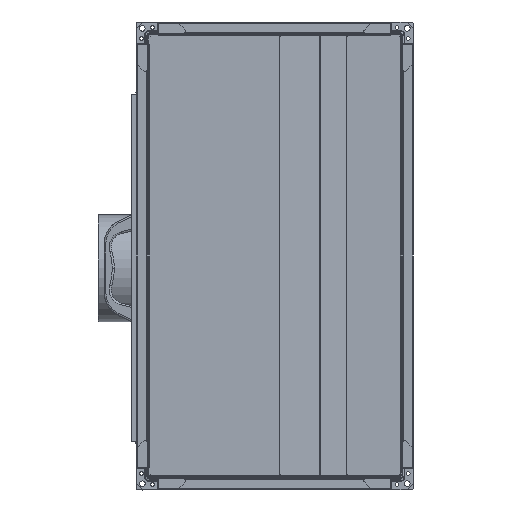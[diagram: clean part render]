
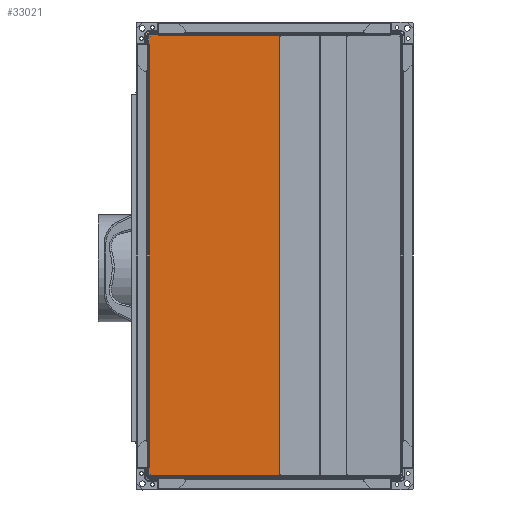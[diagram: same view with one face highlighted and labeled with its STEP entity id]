
A CAD part, left-side view. The second image highlights one B-rep face of the part: STEP entity #33021.
In plain terms, the highlighted planar face has unit normal (-1, 0, 0).
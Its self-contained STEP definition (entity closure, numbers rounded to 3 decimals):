
#2832=FACE_OUTER_BOUND('',#4592,.T.);
#4592=EDGE_LOOP('',(#24066,#24067,#24068,#24069,#24070,#24071,#24072,#24073,
#24074,#24075,#24076,#24077));
#7510=LINE('',#52417,#10572);
#7535=LINE('',#52471,#10597);
#7545=LINE('',#52493,#10607);
#7566=LINE('',#52538,#10628);
#7575=LINE('',#52556,#10637);
#7602=LINE('',#52608,#10664);
#7617=LINE('',#52635,#10679);
#7622=LINE('',#52642,#10684);
#7623=LINE('',#52644,#10685);
#7624=LINE('',#52645,#10686);
#7625=LINE('',#52646,#10687);
#7626=LINE('',#52647,#10688);
#10572=VECTOR('',#38611,10.);
#10597=VECTOR('',#38650,10.);
#10607=VECTOR('',#38664,10.);
#10628=VECTOR('',#38697,10.);
#10637=VECTOR('',#38712,10.);
#10664=VECTOR('',#38751,10.);
#10679=VECTOR('',#38772,10.);
#10684=VECTOR('',#38779,10.);
#10685=VECTOR('',#38780,10.);
#10686=VECTOR('',#38781,10.);
#10687=VECTOR('',#38782,10.);
#10688=VECTOR('',#38783,10.);
#13767=VERTEX_POINT('',#52414);
#13768=VERTEX_POINT('',#52416);
#13789=VERTEX_POINT('',#52469);
#13790=VERTEX_POINT('',#52470);
#13799=VERTEX_POINT('',#52490);
#13800=VERTEX_POINT('',#52492);
#13818=VERTEX_POINT('',#52537);
#13824=VERTEX_POINT('',#52555);
#13843=VERTEX_POINT('',#52607);
#13851=VERTEX_POINT('',#52632);
#13852=VERTEX_POINT('',#52634);
#13854=VERTEX_POINT('',#52643);
#17472=EDGE_CURVE('',#13767,#13768,#7510,.T.);
#17497=EDGE_CURVE('',#13789,#13790,#7535,.T.);
#17507=EDGE_CURVE('',#13799,#13800,#7545,.T.);
#17528=EDGE_CURVE('',#13818,#13800,#7566,.T.);
#17537=EDGE_CURVE('',#13768,#13824,#7575,.T.);
#17564=EDGE_CURVE('',#13790,#13843,#7602,.T.);
#17579=EDGE_CURVE('',#13851,#13852,#7617,.T.);
#17584=EDGE_CURVE('',#13852,#13799,#7622,.T.);
#17585=EDGE_CURVE('',#13854,#13851,#7623,.T.);
#17586=EDGE_CURVE('',#13824,#13854,#7624,.T.);
#17587=EDGE_CURVE('',#13843,#13767,#7625,.T.);
#17588=EDGE_CURVE('',#13789,#13818,#7626,.T.);
#24066=ORIENTED_EDGE('',*,*,#17528,.T.);
#24067=ORIENTED_EDGE('',*,*,#17507,.F.);
#24068=ORIENTED_EDGE('',*,*,#17584,.F.);
#24069=ORIENTED_EDGE('',*,*,#17579,.F.);
#24070=ORIENTED_EDGE('',*,*,#17585,.F.);
#24071=ORIENTED_EDGE('',*,*,#17586,.F.);
#24072=ORIENTED_EDGE('',*,*,#17537,.F.);
#24073=ORIENTED_EDGE('',*,*,#17472,.F.);
#24074=ORIENTED_EDGE('',*,*,#17587,.F.);
#24075=ORIENTED_EDGE('',*,*,#17564,.F.);
#24076=ORIENTED_EDGE('',*,*,#17497,.F.);
#24077=ORIENTED_EDGE('',*,*,#17588,.T.);
#30656=PLANE('',#34581);
#33021=ADVANCED_FACE('',(#2832),#30656,.F.);
#34581=AXIS2_PLACEMENT_3D('',#52641,#38777,#38778);
#38611=DIRECTION('',(0.,0.,1.));
#38650=DIRECTION('',(0.,1.,0.));
#38664=DIRECTION('',(0.,0.,-1.));
#38697=DIRECTION('',(0.,-1.,0.));
#38712=DIRECTION('',(0.,-1.,0.));
#38751=DIRECTION('',(0.,0.,1.));
#38772=DIRECTION('',(0.,0.,-1.));
#38777=DIRECTION('center_axis',(1.,0.,0.));
#38778=DIRECTION('ref_axis',(0.,-1.,0.));
#38779=DIRECTION('',(0.,1.,0.));
#38780=DIRECTION('',(0.,-1.,0.));
#38781=DIRECTION('',(0.,0.,-1.));
#38782=DIRECTION('',(0.,-1.,0.));
#38783=DIRECTION('',(0.,0.,-1.));
#52414=CARTESIAN_POINT('',(14.763,-15.569,683.5));
#52416=CARTESIAN_POINT('',(14.763,-15.569,685.5));
#52417=CARTESIAN_POINT('',(14.763,-15.569,510.25));
#52469=CARTESIAN_POINT('',(14.763,-15.569,-11.5));
#52470=CARTESIAN_POINT('',(14.763,-13.569,-11.5));
#52471=CARTESIAN_POINT('',(14.763,-14.593,-11.5));
#52490=CARTESIAN_POINT('',(14.763,-220.74,-11.5));
#52492=CARTESIAN_POINT('',(14.763,-220.74,-13.5));
#52493=CARTESIAN_POINT('',(14.763,-220.74,161.75));
#52537=CARTESIAN_POINT('',(14.763,-15.569,-13.5));
#52538=CARTESIAN_POINT('',(14.763,-117.937,-13.5));
#52555=CARTESIAN_POINT('',(14.763,-220.74,685.5));
#52556=CARTESIAN_POINT('',(14.763,-117.937,685.5));
#52607=CARTESIAN_POINT('',(14.763,-13.569,683.5));
#52608=CARTESIAN_POINT('',(14.763,-13.569,589.75));
#52632=CARTESIAN_POINT('',(14.763,-221.569,683.5));
#52634=CARTESIAN_POINT('',(14.763,-221.569,-11.5));
#52635=CARTESIAN_POINT('',(14.763,-221.569,336.));
#52641=CARTESIAN_POINT('Origin',(14.763,-117.72,336.));
#52642=CARTESIAN_POINT('',(14.763,-201.525,-11.5));
#52643=CARTESIAN_POINT('',(14.763,-220.74,683.5));
#52644=CARTESIAN_POINT('',(14.763,-169.937,683.5));
#52645=CARTESIAN_POINT('',(14.763,-220.74,510.25));
#52646=CARTESIAN_POINT('',(14.763,-14.593,683.5));
#52647=CARTESIAN_POINT('',(14.763,-15.569,161.75));
